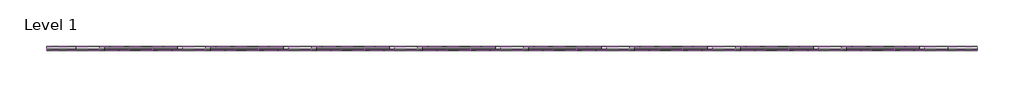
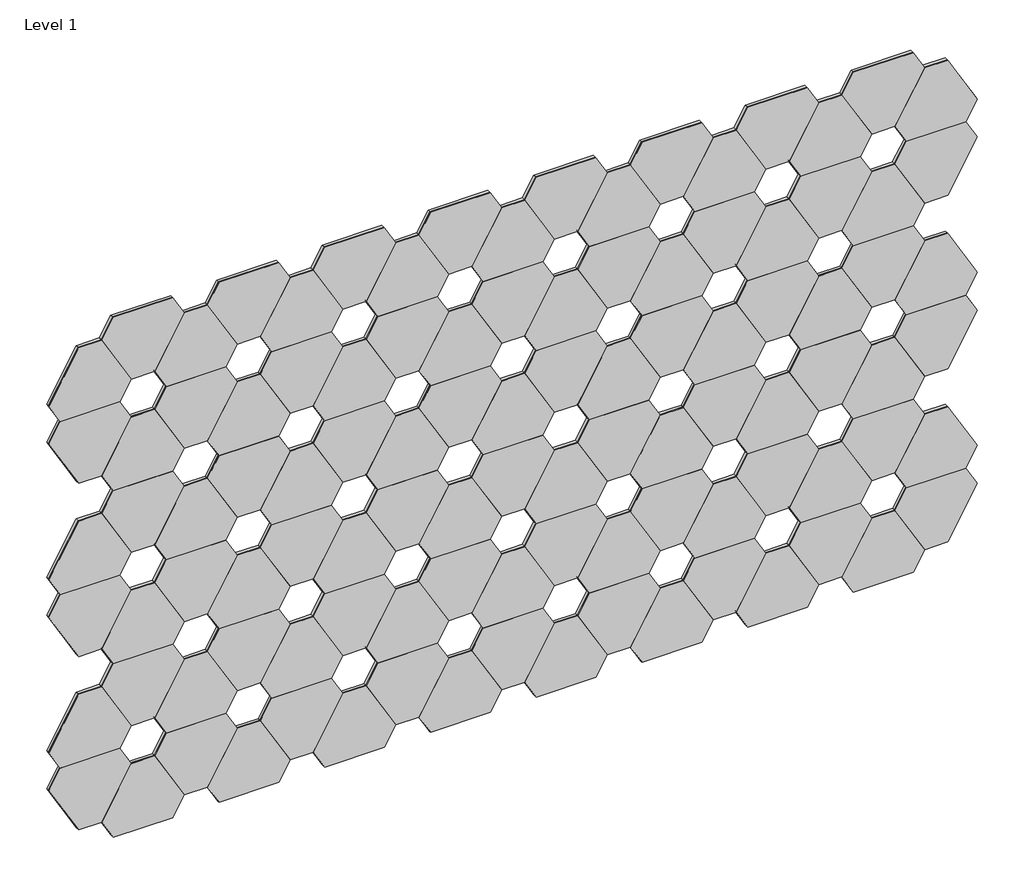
# One storey: 102 proxies.
"""IFC4 building model written with IfcOpenShell, lengths in millimetres."""

from ifc_helpers import new_model, si_unit, origin, place, context, project, spatial, transform, mapped, element, save
from components import aro_block_2_8349c359

model = new_model("IFC4")

# Units and contexts
model_context = context("Model", 3, world=origin())
ifc_project = project(units=[si_unit("LENGTHUNIT", "METRE", prefix="MILLI")], contexts=[model_context])

# Site, building, storey
site = spatial("IfcSite", under=ifc_project)
building = spatial("IfcBuilding", under=site)
storey = spatial("IfcBuildingStorey", under=building, Name="Level 1", Elevation=0.0)

# Proxies
placement = place(None, origin())
aro_block_2_shape = aro_block_2_8349c359(model_context)
element("IfcBuildingElementProxy", 1, Name="FilzFelt_ARO_Block 2 : ARO Block 2", ObjectType="FilzFelt_ARO_Block 2 : ARO Block 2", at=placement, inside=storey, context=model_context, shape_type="MappedRepresentation", body=[
    mapped(aro_block_2_shape, transform((-3217.4823723, -3152.3339335, 734.21875), x_axis=(1.0, 0.0, 0.0), y_axis=(0.0, 0.0, 1.0), z_axis=(0.0, -1.0, 0.0))),
])
element("IfcBuildingElementProxy", 2, Name="FilzFelt_ARO_Block 2 : ARO Block 2", ObjectType="FilzFelt_ARO_Block 2 : ARO Block 2", at=placement, inside=storey, context=model_context, shape_type="MappedRepresentation", body=[
    mapped(aro_block_2_shape, transform((-3391.0652095, -3152.3339335, 834.4368478), x_axis=(-1.0, 0.0, 0.0), y_axis=(0.0, 0.0, -1.0), z_axis=(0.0, -1.0, 0.0))),
])
element("IfcBuildingElementProxy", 3, Name="FilzFelt_ARO_Block 2 : ARO Block 2", ObjectType="FilzFelt_ARO_Block 2 : ARO Block 2", at=placement, inside=storey, context=model_context, shape_type="MappedRepresentation", body=[
    mapped(aro_block_2_shape, transform((-3043.899535, -3152.3339335, 1435.7454346), x_axis=(-1.0, 0.0, 0.0), y_axis=(0.0, 0.0, -1.0), z_axis=(0.0, -1.0, 0.0))),
])
element("IfcBuildingElementProxy", 4, Name="FilzFelt_ARO_Block 2 : ARO Block 2", ObjectType="FilzFelt_ARO_Block 2 : ARO Block 2", at=placement, inside=storey, context=model_context, shape_type="MappedRepresentation", body=[
    mapped(aro_block_2_shape, transform((-3391.0652095, -3152.3339335, 1636.1816303), x_axis=(1.0, 0.0, 0.0), y_axis=(0.0, 0.0, 1.0), z_axis=(0.0, -1.0, 0.0))),
])
element("IfcBuildingElementProxy", 5, Name="FilzFelt_ARO_Block 2 : ARO Block 2", ObjectType="FilzFelt_ARO_Block 2 : ARO Block 2", at=placement, inside=storey, context=model_context, shape_type="MappedRepresentation", body=[
    mapped(aro_block_2_shape, transform((-3043.899535, -3152.3339335, 1636.1816303), x_axis=(1.0, 0.0, 0.0), y_axis=(0.0, 0.0, 1.0), z_axis=(0.0, -1.0, 0.0))),
])
element("IfcBuildingElementProxy", 6, Name="FilzFelt_ARO_Block 2 : ARO Block 2", ObjectType="FilzFelt_ARO_Block 2 : ARO Block 2", at=placement, inside=storey, context=model_context, shape_type="MappedRepresentation", body=[
    mapped(aro_block_2_shape, transform((-3217.4823723, -3152.3339335, 1736.3997281), x_axis=(-1.0, 0.0, 0.0), y_axis=(0.0, 0.0, -1.0), z_axis=(0.0, -1.0, 0.0))),
])
element("IfcBuildingElementProxy", 7, Name="FilzFelt_ARO_Block 2 : ARO Block 2", ObjectType="FilzFelt_ARO_Block 2 : ARO Block 2", at=placement, inside=storey, context=model_context, shape_type="MappedRepresentation", body=[
    mapped(aro_block_2_shape, transform((-2870.3166978, -3152.3339335, 1936.8359237), x_axis=(1.0, 0.0, 0.0), y_axis=(0.0, 0.0, 1.0), z_axis=(0.0, -1.0, 0.0))),
])
element("IfcBuildingElementProxy", 8, Name="FilzFelt_ARO_Block 2 : ARO Block 2", ObjectType="FilzFelt_ARO_Block 2 : ARO Block 2", at=placement, inside=storey, context=model_context, shape_type="MappedRepresentation", body=[
    mapped(aro_block_2_shape, transform((-2696.7338606, -3152.3339335, 2037.0540215), x_axis=(-1.0, 0.0, 0.0), y_axis=(0.0, 0.0, -1.0), z_axis=(0.0, -1.0, 0.0))),
])
element("IfcBuildingElementProxy", 9, Name="FilzFelt_ARO_Block 2 : ARO Block 2", ObjectType="FilzFelt_ARO_Block 2 : ARO Block 2", at=placement, inside=storey, context=model_context, shape_type="MappedRepresentation", body=[
    mapped(aro_block_2_shape, transform((-2523.1510233, -3152.3339335, 1335.5273368), x_axis=(-0.5000000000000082, 0.0, -0.8660254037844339), y_axis=(0.8660254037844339, 0.0, -0.5000000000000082), z_axis=(0.0, -1.0, 0.0))),
])
element("IfcBuildingElementProxy", 10, Name="FilzFelt_ARO_Block 2 : ARO Block 2", ObjectType="FilzFelt_ARO_Block 2 : ARO Block 2", at=placement, inside=storey, context=model_context, shape_type="MappedRepresentation", body=[
    mapped(aro_block_2_shape, transform((-2523.1510233, -3152.3339335, 1936.8359237), x_axis=(-0.5000000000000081, 0.0, -0.866025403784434), y_axis=(0.866025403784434, 0.0, -0.5000000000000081), z_axis=(0.0, -1.0, 0.0))),
])
element("IfcBuildingElementProxy", 11, Name="FilzFelt_ARO_Block 2 : ARO Block 2", ObjectType="FilzFelt_ARO_Block 2 : ARO Block 2", at=placement, inside=storey, context=model_context, shape_type="MappedRepresentation", body=[
    mapped(aro_block_2_shape, transform((-2523.1510233, -3152.3339335, 1736.3997281), x_axis=(-1.0, 0.0, 0.0), y_axis=(0.0, 0.0, -1.0), z_axis=(0.0, -1.0, 0.0))),
])
element("IfcBuildingElementProxy", 12, Name="FilzFelt_ARO_Block 2 : ARO Block 2", ObjectType="FilzFelt_ARO_Block 2 : ARO Block 2", at=placement, inside=storey, context=model_context, shape_type="MappedRepresentation", body=[
    mapped(aro_block_2_shape, transform((-2523.1510233, -3152.3339335, 1135.0911412), x_axis=(-1.0, 0.0, 0.0), y_axis=(0.0, 0.0, -1.0), z_axis=(0.0, -1.0, 0.0))),
])
element("IfcBuildingElementProxy", 13, Name="FilzFelt_ARO_Block 2 : ARO Block 2", ObjectType="FilzFelt_ARO_Block 2 : ARO Block 2", at=placement, inside=storey, context=model_context, shape_type="MappedRepresentation", body=[
    mapped(aro_block_2_shape, transform((-2349.5681861, -3152.3339335, 1034.8730434), x_axis=(1.0, 0.0, 0.0), y_axis=(0.0, 0.0, 1.0), z_axis=(0.0, -1.0, 0.0))),
])
element("IfcBuildingElementProxy", 14, Name="FilzFelt_ARO_Block 2 : ARO Block 2", ObjectType="FilzFelt_ARO_Block 2 : ARO Block 2", at=placement, inside=storey, context=model_context, shape_type="MappedRepresentation", body=[
    mapped(aro_block_2_shape, transform((-2175.9853489, -3152.3339335, 1135.0911412), x_axis=(-1.0, 0.0, 0.0), y_axis=(0.0, 0.0, -1.0), z_axis=(0.0, -1.0, 0.0))),
])
element("IfcBuildingElementProxy", 15, Name="FilzFelt_ARO_Block 2 : ARO Block 2", ObjectType="FilzFelt_ARO_Block 2 : ARO Block 2", at=placement, inside=storey, context=model_context, shape_type="MappedRepresentation", body=[
    mapped(aro_block_2_shape, transform((-1481.6539999, -3152.3339335, 1335.5273368), x_axis=(1.0, 0.0, 0.0), y_axis=(0.0, 0.0, 1.0), z_axis=(0.0, -1.0, 0.0))),
])
element("IfcBuildingElementProxy", 16, Name="FilzFelt_ARO_Block 2 : ARO Block 2", ObjectType="FilzFelt_ARO_Block 2 : ARO Block 2", at=placement, inside=storey, context=model_context, shape_type="MappedRepresentation", body=[
    mapped(aro_block_2_shape, transform((-1828.8196744, -3152.3339335, 2337.7083149), x_axis=(-1.0, 0.0, 0.0), y_axis=(0.0, 0.0, -1.0), z_axis=(0.0, -1.0, 0.0))),
])
element("IfcBuildingElementProxy", 17, Name="FilzFelt_ARO_Block 2 : ARO Block 2", ObjectType="FilzFelt_ARO_Block 2 : ARO Block 2", at=placement, inside=storey, context=model_context, shape_type="MappedRepresentation", body=[
    mapped(aro_block_2_shape, transform((-1308.0711627, -3152.3339335, 1435.7454346), x_axis=(-1.0, 0.0, 0.0), y_axis=(0.0, 0.0, -1.0), z_axis=(0.0, -1.0, 0.0))),
])
element("IfcBuildingElementProxy", 18, Name="FilzFelt_ARO_Block 2 : ARO Block 2", ObjectType="FilzFelt_ARO_Block 2 : ARO Block 2", at=placement, inside=storey, context=model_context, shape_type="MappedRepresentation", body=[
    mapped(aro_block_2_shape, transform((-1134.4883254, -3152.3339335, 1335.5273368), x_axis=(-0.5000000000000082, 0.0, -0.8660254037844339), y_axis=(0.8660254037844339, 0.0, -0.5000000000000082), z_axis=(0.0, -1.0, 0.0))),
])
element("IfcBuildingElementProxy", 19, Name="FilzFelt_ARO_Block 2 : ARO Block 2", ObjectType="FilzFelt_ARO_Block 2 : ARO Block 2", at=placement, inside=storey, context=model_context, shape_type="MappedRepresentation", body=[
    mapped(aro_block_2_shape, transform((-1134.4883254, -3152.3339335, 1936.8359237), x_axis=(-0.5000000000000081, 0.0, -0.866025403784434), y_axis=(0.866025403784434, 0.0, -0.5000000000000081), z_axis=(0.0, -1.0, 0.0))),
])
element("IfcBuildingElementProxy", 20, Name="FilzFelt_ARO_Block 2 : ARO Block 2", ObjectType="FilzFelt_ARO_Block 2 : ARO Block 2", at=placement, inside=storey, context=model_context, shape_type="MappedRepresentation", body=[
    mapped(aro_block_2_shape, transform((-1134.4883254, -3152.3339335, 734.21875), x_axis=(-0.5000000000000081, 0.0, -0.866025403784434), y_axis=(0.866025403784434, 0.0, -0.5000000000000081), z_axis=(0.0, -1.0, 0.0))),
])
element("IfcBuildingElementProxy", 21, Name="FilzFelt_ARO_Block 2 : ARO Block 2", ObjectType="FilzFelt_ARO_Block 2 : ARO Block 2", at=placement, inside=storey, context=model_context, shape_type="MappedRepresentation", body=[
    mapped(aro_block_2_shape, transform((-960.9054882, -3152.3339335, 2037.0540215), x_axis=(-1.0, 0.0, 0.0), y_axis=(0.0, 0.0, -1.0), z_axis=(0.0, -1.0, 0.0))),
])
element("IfcBuildingElementProxy", 22, Name="FilzFelt_ARO_Block 2 : ARO Block 2", ObjectType="FilzFelt_ARO_Block 2 : ARO Block 2", at=placement, inside=storey, context=model_context, shape_type="MappedRepresentation", body=[
    mapped(aro_block_2_shape, transform((-1134.4883254, -3152.3339335, 1736.3997281), x_axis=(-1.0, 0.0, 0.0), y_axis=(0.0, 0.0, -1.0), z_axis=(0.0, -1.0, 0.0))),
])
element("IfcBuildingElementProxy", 23, Name="FilzFelt_ARO_Block 2 : ARO Block 2", ObjectType="FilzFelt_ARO_Block 2 : ARO Block 2", at=placement, inside=storey, context=model_context, shape_type="MappedRepresentation", body=[
    mapped(aro_block_2_shape, transform((-1134.4883254, -3152.3339335, 1135.0911412), x_axis=(-1.0, 0.0, 0.0), y_axis=(0.0, 0.0, -1.0), z_axis=(0.0, -1.0, 0.0))),
])
element("IfcBuildingElementProxy", 24, Name="FilzFelt_ARO_Block 2 : ARO Block 2", ObjectType="FilzFelt_ARO_Block 2 : ARO Block 2", at=placement, inside=storey, context=model_context, shape_type="MappedRepresentation", body=[
    mapped(aro_block_2_shape, transform((-787.3226509, -3152.3339335, 1936.8359237), x_axis=(1.0, 0.0, 0.0), y_axis=(0.0, 0.0, 1.0), z_axis=(0.0, -1.0, 0.0))),
])
element("IfcBuildingElementProxy", 25, Name="FilzFelt_ARO_Block 2 : ARO Block 2", ObjectType="FilzFelt_ARO_Block 2 : ARO Block 2", at=placement, inside=storey, context=model_context, shape_type="MappedRepresentation", body=[
    mapped(aro_block_2_shape, transform((-787.3226509, -3152.3339335, 2337.7083149), x_axis=(-1.0, 0.0, 0.0), y_axis=(0.0, 0.0, -1.0), z_axis=(0.0, -1.0, 0.0))),
])
element("IfcBuildingElementProxy", 26, Name="FilzFelt_ARO_Block 2 : ARO Block 2", ObjectType="FilzFelt_ARO_Block 2 : ARO Block 2", at=placement, inside=storey, context=model_context, shape_type="MappedRepresentation", body=[
    mapped(aro_block_2_shape, transform((-3391.0652095, -3152.3339335, 1034.8730434), x_axis=(1.0, 0.0, 0.0), y_axis=(0.0, 0.0, 1.0), z_axis=(0.0, -1.0, 0.0))),
])
element("IfcBuildingElementProxy", 27, Name="FilzFelt_ARO_Block 2 : ARO Block 2", ObjectType="FilzFelt_ARO_Block 2 : ARO Block 2", at=placement, inside=storey, context=model_context, shape_type="MappedRepresentation", body=[
    mapped(aro_block_2_shape, transform((-3043.899535, -3152.3339335, 1034.8730434), x_axis=(1.0, 0.0, 0.0), y_axis=(0.0, 0.0, 1.0), z_axis=(0.0, -1.0, 0.0))),
])
element("IfcBuildingElementProxy", 28, Name="FilzFelt_ARO_Block 2 : ARO Block 2", ObjectType="FilzFelt_ARO_Block 2 : ARO Block 2", at=placement, inside=storey, context=model_context, shape_type="MappedRepresentation", body=[
    mapped(aro_block_2_shape, transform((-3043.899535, -3152.3339335, 834.4368478), x_axis=(-1.0, 0.0, 0.0), y_axis=(0.0, 0.0, -1.0), z_axis=(0.0, -1.0, 0.0))),
])
element("IfcBuildingElementProxy", 29, Name="FilzFelt_ARO_Block 2 : ARO Block 2", ObjectType="FilzFelt_ARO_Block 2 : ARO Block 2", at=placement, inside=storey, context=model_context, shape_type="MappedRepresentation", body=[
    mapped(aro_block_2_shape, transform((-2349.5681861, -3152.3339335, 2037.0540215), x_axis=(-1.0, 0.0, 0.0), y_axis=(0.0, 0.0, -1.0), z_axis=(0.0, -1.0, 0.0))),
])
element("IfcBuildingElementProxy", 30, Name="FilzFelt_ARO_Block 2 : ARO Block 2", ObjectType="FilzFelt_ARO_Block 2 : ARO Block 2", at=placement, inside=storey, context=model_context, shape_type="MappedRepresentation", body=[
    mapped(aro_block_2_shape, transform((-2175.9853489, -3152.3339335, 1936.8359237), x_axis=(1.0, 0.0, 0.0), y_axis=(0.0, 0.0, 1.0), z_axis=(0.0, -1.0, 0.0))),
])
element("IfcBuildingElementProxy", 31, Name="FilzFelt_ARO_Block 2 : ARO Block 2", ObjectType="FilzFelt_ARO_Block 2 : ARO Block 2", at=placement, inside=storey, context=model_context, shape_type="MappedRepresentation", body=[
    mapped(aro_block_2_shape, transform((-1828.8196744, -3152.3339335, 734.21875), x_axis=(1.0, 0.0, 0.0), y_axis=(0.0, 0.0, 1.0), z_axis=(0.0, -1.0, 0.0))),
])
element("IfcBuildingElementProxy", 32, Name="FilzFelt_ARO_Block 2 : ARO Block 2", ObjectType="FilzFelt_ARO_Block 2 : ARO Block 2", at=placement, inside=storey, context=model_context, shape_type="MappedRepresentation", body=[
    mapped(aro_block_2_shape, transform((-2002.4025116, -3152.3339335, 834.4368478), x_axis=(-1.0, 0.0, 0.0), y_axis=(0.0, 0.0, -1.0), z_axis=(0.0, -1.0, 0.0))),
])
element("IfcBuildingElementProxy", 33, Name="FilzFelt_ARO_Block 2 : ARO Block 2", ObjectType="FilzFelt_ARO_Block 2 : ARO Block 2", at=placement, inside=storey, context=model_context, shape_type="MappedRepresentation", body=[
    mapped(aro_block_2_shape, transform((-2002.4025116, -3152.3339335, 1034.8730434), x_axis=(1.0, 0.0, 0.0), y_axis=(0.0, 0.0, 1.0), z_axis=(0.0, -1.0, 0.0))),
])
element("IfcBuildingElementProxy", 34, Name="FilzFelt_ARO_Block 2 : ARO Block 2", ObjectType="FilzFelt_ARO_Block 2 : ARO Block 2", at=placement, inside=storey, context=model_context, shape_type="MappedRepresentation", body=[
    mapped(aro_block_2_shape, transform((-1655.2368371, -3152.3339335, 834.4368478), x_axis=(-1.0, 0.0, 0.0), y_axis=(0.0, 0.0, -1.0), z_axis=(0.0, -1.0, 0.0))),
])
element("IfcBuildingElementProxy", 35, Name="FilzFelt_ARO_Block 2 : ARO Block 2", ObjectType="FilzFelt_ARO_Block 2 : ARO Block 2", at=placement, inside=storey, context=model_context, shape_type="MappedRepresentation", body=[
    mapped(aro_block_2_shape, transform((-1655.2368371, -3152.3339335, 1435.7454346), x_axis=(-1.0, 0.0, 0.0), y_axis=(0.0, 0.0, -1.0), z_axis=(0.0, -1.0, 0.0))),
])
element("IfcBuildingElementProxy", 36, Name="FilzFelt_ARO_Block 2 : ARO Block 2", ObjectType="FilzFelt_ARO_Block 2 : ARO Block 2", at=placement, inside=storey, context=model_context, shape_type="MappedRepresentation", body=[
    mapped(aro_block_2_shape, transform((-1655.2368371, -3152.3339335, 1636.1816303), x_axis=(1.0, 0.0, 0.0), y_axis=(0.0, 0.0, 1.0), z_axis=(0.0, -1.0, 0.0))),
])
element("IfcBuildingElementProxy", 37, Name="FilzFelt_ARO_Block 2 : ARO Block 2", ObjectType="FilzFelt_ARO_Block 2 : ARO Block 2", at=placement, inside=storey, context=model_context, shape_type="MappedRepresentation", body=[
    mapped(aro_block_2_shape, transform((-1481.6539999, -3152.3339335, 1736.3997281), x_axis=(-1.0, 0.0, 0.0), y_axis=(0.0, 0.0, -1.0), z_axis=(0.0, -1.0, 0.0))),
])
element("IfcBuildingElementProxy", 38, Name="FilzFelt_ARO_Block 2 : ARO Block 2", ObjectType="FilzFelt_ARO_Block 2 : ARO Block 2", at=placement, inside=storey, context=model_context, shape_type="MappedRepresentation", body=[
    mapped(aro_block_2_shape, transform((-2002.4025116, -3152.3339335, 2037.0540215), x_axis=(-1.0, 0.0, 0.0), y_axis=(0.0, 0.0, -1.0), z_axis=(0.0, -1.0, 0.0))),
])
element("IfcBuildingElementProxy", 39, Name="FilzFelt_ARO_Block 2 : ARO Block 2", ObjectType="FilzFelt_ARO_Block 2 : ARO Block 2", at=placement, inside=storey, context=model_context, shape_type="MappedRepresentation", body=[
    mapped(aro_block_2_shape, transform((-2002.4025116, -3152.3339335, 2237.4902171), x_axis=(1.0, 0.0, 0.0), y_axis=(0.0, 0.0, 1.0), z_axis=(0.0, -1.0, 0.0))),
])
element("IfcBuildingElementProxy", 40, Name="FilzFelt_ARO_Block 2 : ARO Block 2", ObjectType="FilzFelt_ARO_Block 2 : ARO Block 2", at=placement, inside=storey, context=model_context, shape_type="MappedRepresentation", body=[
    mapped(aro_block_2_shape, transform((-1308.0711627, -3152.3339335, 1636.1816303), x_axis=(1.0, 0.0, 0.0), y_axis=(0.0, 0.0, 1.0), z_axis=(0.0, -1.0, 0.0))),
])
element("IfcBuildingElementProxy", 41, Name="FilzFelt_ARO_Block 2 : ARO Block 2", ObjectType="FilzFelt_ARO_Block 2 : ARO Block 2", at=placement, inside=storey, context=model_context, shape_type="MappedRepresentation", body=[
    mapped(aro_block_2_shape, transform((-960.9054882, -3152.3339335, 1435.7454346), x_axis=(-1.0, 0.0, 0.0), y_axis=(0.0, 0.0, -1.0), z_axis=(0.0, -1.0, 0.0))),
])
element("IfcBuildingElementProxy", 42, Name="FilzFelt_ARO_Block 2 : ARO Block 2", ObjectType="FilzFelt_ARO_Block 2 : ARO Block 2", at=placement, inside=storey, context=model_context, shape_type="MappedRepresentation", body=[
    mapped(aro_block_2_shape, transform((-960.9054882, -3152.3339335, 1034.8730434), x_axis=(1.0, 0.0, 0.0), y_axis=(0.0, 0.0, 1.0), z_axis=(0.0, -1.0, 0.0))),
])
element("IfcBuildingElementProxy", 43, Name="FilzFelt_ARO_Block 2 : ARO Block 2", ObjectType="FilzFelt_ARO_Block 2 : ARO Block 2", at=placement, inside=storey, context=model_context, shape_type="MappedRepresentation", body=[
    mapped(aro_block_2_shape, transform((-960.9054882, -3152.3339335, 2237.4902171), x_axis=(1.0, 0.0, 0.0), y_axis=(0.0, 0.0, 1.0), z_axis=(0.0, -1.0, 0.0))),
])
element("IfcBuildingElementProxy", 44, Name="FilzFelt_ARO_Block 2 : ARO Block 2", ObjectType="FilzFelt_ARO_Block 2 : ARO Block 2", at=placement, inside=storey, context=model_context, shape_type="MappedRepresentation", body=[
    mapped(aro_block_2_shape, transform((-787.3226509, -3152.3339335, 1335.5273368), x_axis=(1.0, 0.0, 0.0), y_axis=(0.0, 0.0, 1.0), z_axis=(0.0, -1.0, 0.0))),
])
element("IfcBuildingElementProxy", 45, Name="FilzFelt_ARO_Block 2 : ARO Block 2", ObjectType="FilzFelt_ARO_Block 2 : ARO Block 2", at=placement, inside=storey, context=model_context, shape_type="MappedRepresentation", body=[
    mapped(aro_block_2_shape, transform((-787.3226509, -3152.3339335, 1135.0911412), x_axis=(-1.0, 0.0, 0.0), y_axis=(0.0, 0.0, -1.0), z_axis=(0.0, -1.0, 0.0))),
])
element("IfcBuildingElementProxy", 46, Name="FilzFelt_ARO_Block 2 : ARO Block 2", ObjectType="FilzFelt_ARO_Block 2 : ARO Block 2", at=placement, inside=storey, context=model_context, shape_type="MappedRepresentation", body=[
    mapped(aro_block_2_shape, transform((-3217.4823723, -3152.3339335, 1135.0911412), x_axis=(-1.0, 0.0, 0.0), y_axis=(0.0, 0.0, -1.0), z_axis=(0.0, -1.0, 0.0))),
])
element("IfcBuildingElementProxy", 47, Name="FilzFelt_ARO_Block 2 : ARO Block 2", ObjectType="FilzFelt_ARO_Block 2 : ARO Block 2", at=placement, inside=storey, context=model_context, shape_type="MappedRepresentation", body=[
    mapped(aro_block_2_shape, transform((-3217.4823723, -3152.3339335, 1335.5273368), x_axis=(1.0, 0.0, 0.0), y_axis=(0.0, 0.0, 1.0), z_axis=(0.0, -1.0, 0.0))),
])
element("IfcBuildingElementProxy", 48, Name="FilzFelt_ARO_Block 2 : ARO Block 2", ObjectType="FilzFelt_ARO_Block 2 : ARO Block 2", at=placement, inside=storey, context=model_context, shape_type="MappedRepresentation", body=[
    mapped(aro_block_2_shape, transform((-2870.3166978, -3152.3339335, 1335.5273368), x_axis=(1.0, 0.0, 0.0), y_axis=(0.0, 0.0, 1.0), z_axis=(0.0, -1.0, 0.0))),
])
element("IfcBuildingElementProxy", 49, Name="FilzFelt_ARO_Block 2 : ARO Block 2", ObjectType="FilzFelt_ARO_Block 2 : ARO Block 2", at=placement, inside=storey, context=model_context, shape_type="MappedRepresentation", body=[
    mapped(aro_block_2_shape, transform((-3391.0652095, -3152.3339335, 1435.7454346), x_axis=(-1.0, 0.0, 0.0), y_axis=(0.0, 0.0, -1.0), z_axis=(0.0, -1.0, 0.0))),
])
element("IfcBuildingElementProxy", 50, Name="FilzFelt_ARO_Block 2 : ARO Block 2", ObjectType="FilzFelt_ARO_Block 2 : ARO Block 2", at=placement, inside=storey, context=model_context, shape_type="MappedRepresentation", body=[
    mapped(aro_block_2_shape, transform((-2870.3166978, -3152.3339335, 1736.3997281), x_axis=(-1.0, 0.0, 0.0), y_axis=(0.0, 0.0, -1.0), z_axis=(0.0, -1.0, 0.0))),
])
element("IfcBuildingElementProxy", 51, Name="FilzFelt_ARO_Block 2 : ARO Block 2", ObjectType="FilzFelt_ARO_Block 2 : ARO Block 2", at=placement, inside=storey, context=model_context, shape_type="MappedRepresentation", body=[
    mapped(aro_block_2_shape, transform((-3043.899535, -3152.3339335, 2237.4902171), x_axis=(1.0, 0.0, 0.0), y_axis=(0.0, 0.0, 1.0), z_axis=(0.0, -1.0, 0.0))),
])
element("IfcBuildingElementProxy", 52, Name="FilzFelt_ARO_Block 2 : ARO Block 2", ObjectType="FilzFelt_ARO_Block 2 : ARO Block 2", at=placement, inside=storey, context=model_context, shape_type="MappedRepresentation", body=[
    mapped(aro_block_2_shape, transform((-3043.899535, -3152.3339335, 2037.0540215), x_axis=(-1.0, 0.0, 0.0), y_axis=(0.0, 0.0, -1.0), z_axis=(0.0, -1.0, 0.0))),
])
element("IfcBuildingElementProxy", 53, Name="FilzFelt_ARO_Block 2 : ARO Block 2", ObjectType="FilzFelt_ARO_Block 2 : ARO Block 2", at=placement, inside=storey, context=model_context, shape_type="MappedRepresentation", body=[
    mapped(aro_block_2_shape, transform((-2870.3166978, -3152.3339335, 2337.7083149), x_axis=(-1.0, 0.0, 0.0), y_axis=(0.0, 0.0, -1.0), z_axis=(0.0, -1.0, 0.0))),
])
element("IfcBuildingElementProxy", 54, Name="FilzFelt_ARO_Block 2 : ARO Block 2", ObjectType="FilzFelt_ARO_Block 2 : ARO Block 2", at=placement, inside=storey, context=model_context, shape_type="MappedRepresentation", body=[
    mapped(aro_block_2_shape, transform((-2696.7338606, -3152.3339335, 2237.4902171), x_axis=(1.0, 0.0, 0.0), y_axis=(0.0, 0.0, 1.0), z_axis=(0.0, -1.0, 0.0))),
])
element("IfcBuildingElementProxy", 55, Name="FilzFelt_ARO_Block 2 : ARO Block 2", ObjectType="FilzFelt_ARO_Block 2 : ARO Block 2", at=placement, inside=storey, context=model_context, shape_type="MappedRepresentation", body=[
    mapped(aro_block_2_shape, transform((-2696.7338606, -3152.3339335, 1636.1816303), x_axis=(1.0, 0.0, 0.0), y_axis=(0.0, 0.0, 1.0), z_axis=(0.0, -1.0, 0.0))),
])
element("IfcBuildingElementProxy", 56, Name="FilzFelt_ARO_Block 2 : ARO Block 2", ObjectType="FilzFelt_ARO_Block 2 : ARO Block 2", at=placement, inside=storey, context=model_context, shape_type="MappedRepresentation", body=[
    mapped(aro_block_2_shape, transform((-2696.7338606, -3152.3339335, 1435.7454346), x_axis=(-1.0, 0.0, 0.0), y_axis=(0.0, 0.0, -1.0), z_axis=(0.0, -1.0, 0.0))),
])
element("IfcBuildingElementProxy", 57, Name="FilzFelt_ARO_Block 2 : ARO Block 2", ObjectType="FilzFelt_ARO_Block 2 : ARO Block 2", at=placement, inside=storey, context=model_context, shape_type="MappedRepresentation", body=[
    mapped(aro_block_2_shape, transform((-2523.1510233, -3152.3339335, 734.21875), x_axis=(-0.5000000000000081, 0.0, -0.866025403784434), y_axis=(0.866025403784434, 0.0, -0.5000000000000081), z_axis=(0.0, -1.0, 0.0))),
])
element("IfcBuildingElementProxy", 58, Name="FilzFelt_ARO_Block 2 : ARO Block 2", ObjectType="FilzFelt_ARO_Block 2 : ARO Block 2", at=placement, inside=storey, context=model_context, shape_type="MappedRepresentation", body=[
    mapped(aro_block_2_shape, transform((-2349.5681861, -3152.3339335, 834.4368478), x_axis=(-1.0, 0.0, 0.0), y_axis=(0.0, 0.0, -1.0), z_axis=(0.0, -1.0, 0.0))),
])
element("IfcBuildingElementProxy", 59, Name="FilzFelt_ARO_Block 2 : ARO Block 2", ObjectType="FilzFelt_ARO_Block 2 : ARO Block 2", at=placement, inside=storey, context=model_context, shape_type="MappedRepresentation", body=[
    mapped(aro_block_2_shape, transform((-2175.9853489, -3152.3339335, 1335.5273368), x_axis=(1.0, 0.0, 0.0), y_axis=(0.0, 0.0, 1.0), z_axis=(0.0, -1.0, 0.0))),
])
element("IfcBuildingElementProxy", 60, Name="FilzFelt_ARO_Block 2 : ARO Block 2", ObjectType="FilzFelt_ARO_Block 2 : ARO Block 2", at=placement, inside=storey, context=model_context, shape_type="MappedRepresentation", body=[
    mapped(aro_block_2_shape, transform((-2175.9853489, -3152.3339335, 734.21875), x_axis=(1.0, 0.0, 0.0), y_axis=(0.0, 0.0, 1.0), z_axis=(0.0, -1.0, 0.0))),
])
element("IfcBuildingElementProxy", 61, Name="FilzFelt_ARO_Block 2 : ARO Block 2", ObjectType="FilzFelt_ARO_Block 2 : ARO Block 2", at=placement, inside=storey, context=model_context, shape_type="MappedRepresentation", body=[
    mapped(aro_block_2_shape, transform((-1828.8196744, -3152.3339335, 1135.0911412), x_axis=(-1.0, 0.0, 0.0), y_axis=(0.0, 0.0, -1.0), z_axis=(0.0, -1.0, 0.0))),
])
element("IfcBuildingElementProxy", 62, Name="FilzFelt_ARO_Block 2 : ARO Block 2", ObjectType="FilzFelt_ARO_Block 2 : ARO Block 2", at=placement, inside=storey, context=model_context, shape_type="MappedRepresentation", body=[
    mapped(aro_block_2_shape, transform((-1828.8196744, -3152.3339335, 1335.5273368), x_axis=(1.0, 0.0, 0.0), y_axis=(0.0, 0.0, 1.0), z_axis=(0.0, -1.0, 0.0))),
])
element("IfcBuildingElementProxy", 63, Name="FilzFelt_ARO_Block 2 : ARO Block 2", ObjectType="FilzFelt_ARO_Block 2 : ARO Block 2", at=placement, inside=storey, context=model_context, shape_type="MappedRepresentation", body=[
    mapped(aro_block_2_shape, transform((-2002.4025116, -3152.3339335, 1435.7454346), x_axis=(-1.0, 0.0, 0.0), y_axis=(0.0, 0.0, -1.0), z_axis=(0.0, -1.0, 0.0))),
])
element("IfcBuildingElementProxy", 64, Name="FilzFelt_ARO_Block 2 : ARO Block 2", ObjectType="FilzFelt_ARO_Block 2 : ARO Block 2", at=placement, inside=storey, context=model_context, shape_type="MappedRepresentation", body=[
    mapped(aro_block_2_shape, transform((-1481.6539999, -3152.3339335, 734.21875), x_axis=(1.0, 0.0, 0.0), y_axis=(0.0, 0.0, 1.0), z_axis=(0.0, -1.0, 0.0))),
])
element("IfcBuildingElementProxy", 65, Name="FilzFelt_ARO_Block 2 : ARO Block 2", ObjectType="FilzFelt_ARO_Block 2 : ARO Block 2", at=placement, inside=storey, context=model_context, shape_type="MappedRepresentation", body=[
    mapped(aro_block_2_shape, transform((-1828.8196744, -3152.3339335, 1736.3997281), x_axis=(-1.0, 0.0, 0.0), y_axis=(0.0, 0.0, -1.0), z_axis=(0.0, -1.0, 0.0))),
])
element("IfcBuildingElementProxy", 66, Name="FilzFelt_ARO_Block 2 : ARO Block 2", ObjectType="FilzFelt_ARO_Block 2 : ARO Block 2", at=placement, inside=storey, context=model_context, shape_type="MappedRepresentation", body=[
    mapped(aro_block_2_shape, transform((-1828.8196744, -3152.3339335, 1936.8359237), x_axis=(1.0, 0.0, 0.0), y_axis=(0.0, 0.0, 1.0), z_axis=(0.0, -1.0, 0.0))),
])
element("IfcBuildingElementProxy", 67, Name="FilzFelt_ARO_Block 2 : ARO Block 2", ObjectType="FilzFelt_ARO_Block 2 : ARO Block 2", at=placement, inside=storey, context=model_context, shape_type="MappedRepresentation", body=[
    mapped(aro_block_2_shape, transform((-1655.2368371, -3152.3339335, 2037.0540215), x_axis=(-1.0, 0.0, 0.0), y_axis=(0.0, 0.0, -1.0), z_axis=(0.0, -1.0, 0.0))),
])
element("IfcBuildingElementProxy", 68, Name="FilzFelt_ARO_Block 2 : ARO Block 2", ObjectType="FilzFelt_ARO_Block 2 : ARO Block 2", at=placement, inside=storey, context=model_context, shape_type="MappedRepresentation", body=[
    mapped(aro_block_2_shape, transform((-1481.6539999, -3152.3339335, 1936.8359237), x_axis=(1.0, 0.0, 0.0), y_axis=(0.0, 0.0, 1.0), z_axis=(0.0, -1.0, 0.0))),
])
element("IfcBuildingElementProxy", 69, Name="FilzFelt_ARO_Block 2 : ARO Block 2", ObjectType="FilzFelt_ARO_Block 2 : ARO Block 2", at=placement, inside=storey, context=model_context, shape_type="MappedRepresentation", body=[
    mapped(aro_block_2_shape, transform((-1134.4883254, -3152.3339335, 2337.7083149), x_axis=(-1.0, 0.0, 0.0), y_axis=(0.0, 0.0, -1.0), z_axis=(0.0, -1.0, 0.0))),
])
element("IfcBuildingElementProxy", 70, Name="FilzFelt_ARO_Block 2 : ARO Block 2", ObjectType="FilzFelt_ARO_Block 2 : ARO Block 2", at=placement, inside=storey, context=model_context, shape_type="MappedRepresentation", body=[
    mapped(aro_block_2_shape, transform((-960.9054882, -3152.3339335, 834.4368478), x_axis=(-1.0, 0.0, 0.0), y_axis=(0.0, 0.0, -1.0), z_axis=(0.0, -1.0, 0.0))),
])
element("IfcBuildingElementProxy", 71, Name="FilzFelt_ARO_Block 2 : ARO Block 2", ObjectType="FilzFelt_ARO_Block 2 : ARO Block 2", at=placement, inside=storey, context=model_context, shape_type="MappedRepresentation", body=[
    mapped(aro_block_2_shape, transform((-787.3226509, -3152.3339335, 734.21875), x_axis=(1.0, 0.0, 0.0), y_axis=(0.0, 0.0, 1.0), z_axis=(0.0, -1.0, 0.0))),
])
element("IfcBuildingElementProxy", 72, Name="FilzFelt_ARO_Block 2 : ARO Block 2", ObjectType="FilzFelt_ARO_Block 2 : ARO Block 2", at=placement, inside=storey, context=model_context, shape_type="MappedRepresentation", body=[
    mapped(aro_block_2_shape, transform((-613.7398137, -3152.3339335, 2237.4902171), x_axis=(1.0, 0.0, 0.0), y_axis=(0.0, 0.0, 1.0), z_axis=(0.0, -1.0, 0.0))),
])
element("IfcBuildingElementProxy", 73, Name="FilzFelt_ARO_Block 2 : ARO Block 2", ObjectType="FilzFelt_ARO_Block 2 : ARO Block 2", at=placement, inside=storey, context=model_context, shape_type="MappedRepresentation", body=[
    mapped(aro_block_2_shape, transform((-613.7398137, -3152.3339335, 1034.8730434), x_axis=(1.0, 0.0, 0.0), y_axis=(0.0, 0.0, 1.0), z_axis=(0.0, -1.0, 0.0))),
])
element("IfcBuildingElementProxy", 74, Name="FilzFelt_ARO_Block 2 : ARO Block 2", ObjectType="FilzFelt_ARO_Block 2 : ARO Block 2", at=placement, inside=storey, context=model_context, shape_type="MappedRepresentation", body=[
    mapped(aro_block_2_shape, transform((-613.7398137, -3152.3339335, 834.4368478), x_axis=(0.5000000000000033, 0.0, 0.8660254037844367), y_axis=(-0.8660254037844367, 0.0, 0.5000000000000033), z_axis=(0.0, -1.0, 0.0))),
])
element("IfcBuildingElementProxy", 75, Name="FilzFelt_ARO_Block 2 : ARO Block 2", ObjectType="FilzFelt_ARO_Block 2 : ARO Block 2", at=placement, inside=storey, context=model_context, shape_type="MappedRepresentation", body=[
    mapped(aro_block_2_shape, transform((-613.8798966, -3152.3339335, 2037.0540215), x_axis=(0.5000000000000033, 0.0, 0.8660254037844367), y_axis=(-0.8660254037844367, 0.0, 0.5000000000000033), z_axis=(0.0, -1.0, 0.0))),
])
element("IfcBuildingElementProxy", 76, Name="FilzFelt_ARO_Block 2 : ARO Block 2", ObjectType="FilzFelt_ARO_Block 2 : ARO Block 2", at=placement, inside=storey, context=model_context, shape_type="MappedRepresentation", body=[
    mapped(aro_block_2_shape, transform((-2870.3166978, -3152.3339335, 1135.0911412), x_axis=(-1.0, 0.0, 0.0), y_axis=(0.0, 0.0, -1.0), z_axis=(0.0, -1.0, 0.0))),
])
element("IfcBuildingElementProxy", 77, Name="FilzFelt_ARO_Block 2 : ARO Block 2", ObjectType="FilzFelt_ARO_Block 2 : ARO Block 2", at=placement, inside=storey, context=model_context, shape_type="MappedRepresentation", body=[
    mapped(aro_block_2_shape, transform((-2870.3166978, -3152.3339335, 734.21875), x_axis=(1.0, 0.0, 0.0), y_axis=(0.0, 0.0, 1.0), z_axis=(0.0, -1.0, 0.0))),
])
element("IfcBuildingElementProxy", 78, Name="FilzFelt_ARO_Block 2 : ARO Block 2", ObjectType="FilzFelt_ARO_Block 2 : ARO Block 2", at=placement, inside=storey, context=model_context, shape_type="MappedRepresentation", body=[
    mapped(aro_block_2_shape, transform((-3217.4823723, -3152.3339335, 1936.8359237), x_axis=(1.0, 0.0, 0.0), y_axis=(0.0, 0.0, 1.0), z_axis=(0.0, -1.0, 0.0))),
])
element("IfcBuildingElementProxy", 79, Name="FilzFelt_ARO_Block 2 : ARO Block 2", ObjectType="FilzFelt_ARO_Block 2 : ARO Block 2", at=placement, inside=storey, context=model_context, shape_type="MappedRepresentation", body=[
    mapped(aro_block_2_shape, transform((-3391.0652095, -3152.3339335, 2037.0540215), x_axis=(-1.0, 0.0, 0.0), y_axis=(0.0, 0.0, -1.0), z_axis=(0.0, -1.0, 0.0))),
])
element("IfcBuildingElementProxy", 80, Name="FilzFelt_ARO_Block 2 : ARO Block 2", ObjectType="FilzFelt_ARO_Block 2 : ARO Block 2", at=placement, inside=storey, context=model_context, shape_type="MappedRepresentation", body=[
    mapped(aro_block_2_shape, transform((-3391.0652095, -3152.3339335, 2237.4902171), x_axis=(1.0, 0.0, 0.0), y_axis=(0.0, 0.0, 1.0), z_axis=(0.0, -1.0, 0.0))),
])
element("IfcBuildingElementProxy", 81, Name="FilzFelt_ARO_Block 2 : ARO Block 2", ObjectType="FilzFelt_ARO_Block 2 : ARO Block 2", at=placement, inside=storey, context=model_context, shape_type="MappedRepresentation", body=[
    mapped(aro_block_2_shape, transform((-3217.4823723, -3152.3339335, 2337.7083149), x_axis=(-1.0, 0.0, 0.0), y_axis=(0.0, 0.0, -1.0), z_axis=(0.0, -1.0, 0.0))),
])
element("IfcBuildingElementProxy", 82, Name="FilzFelt_ARO_Block 2 : ARO Block 2", ObjectType="FilzFelt_ARO_Block 2 : ARO Block 2", at=placement, inside=storey, context=model_context, shape_type="MappedRepresentation", body=[
    mapped(aro_block_2_shape, transform((-2696.7338606, -3152.3339335, 1034.8730434), x_axis=(1.0, 0.0, 0.0), y_axis=(0.0, 0.0, 1.0), z_axis=(0.0, -1.0, 0.0))),
])
element("IfcBuildingElementProxy", 83, Name="FilzFelt_ARO_Block 2 : ARO Block 2", ObjectType="FilzFelt_ARO_Block 2 : ARO Block 2", at=placement, inside=storey, context=model_context, shape_type="MappedRepresentation", body=[
    mapped(aro_block_2_shape, transform((-2696.7338606, -3152.3339335, 834.4368478), x_axis=(-1.0, 0.0, 0.0), y_axis=(0.0, 0.0, -1.0), z_axis=(0.0, -1.0, 0.0))),
])
element("IfcBuildingElementProxy", 84, Name="FilzFelt_ARO_Block 2 : ARO Block 2", ObjectType="FilzFelt_ARO_Block 2 : ARO Block 2", at=placement, inside=storey, context=model_context, shape_type="MappedRepresentation", body=[
    mapped(aro_block_2_shape, transform((-2523.1510233, -3152.3339335, 2337.7083149), x_axis=(-1.0, 0.0, 0.0), y_axis=(0.0, 0.0, -1.0), z_axis=(0.0, -1.0, 0.0))),
])
element("IfcBuildingElementProxy", 85, Name="FilzFelt_ARO_Block 2 : ARO Block 2", ObjectType="FilzFelt_ARO_Block 2 : ARO Block 2", at=placement, inside=storey, context=model_context, shape_type="MappedRepresentation", body=[
    mapped(aro_block_2_shape, transform((-2349.5681861, -3152.3339335, 1435.7454346), x_axis=(-1.0, 0.0, 0.0), y_axis=(0.0, 0.0, -1.0), z_axis=(0.0, -1.0, 0.0))),
])
element("IfcBuildingElementProxy", 86, Name="FilzFelt_ARO_Block 2 : ARO Block 2", ObjectType="FilzFelt_ARO_Block 2 : ARO Block 2", at=placement, inside=storey, context=model_context, shape_type="MappedRepresentation", body=[
    mapped(aro_block_2_shape, transform((-2349.5681861, -3152.3339335, 1636.1816303), x_axis=(1.0, 0.0, 0.0), y_axis=(0.0, 0.0, 1.0), z_axis=(0.0, -1.0, 0.0))),
])
element("IfcBuildingElementProxy", 87, Name="FilzFelt_ARO_Block 2 : ARO Block 2", ObjectType="FilzFelt_ARO_Block 2 : ARO Block 2", at=placement, inside=storey, context=model_context, shape_type="MappedRepresentation", body=[
    mapped(aro_block_2_shape, transform((-2349.5681861, -3152.3339335, 2237.4902171), x_axis=(1.0, 0.0, 0.0), y_axis=(0.0, 0.0, 1.0), z_axis=(0.0, -1.0, 0.0))),
])
element("IfcBuildingElementProxy", 88, Name="FilzFelt_ARO_Block 2 : ARO Block 2", ObjectType="FilzFelt_ARO_Block 2 : ARO Block 2", at=placement, inside=storey, context=model_context, shape_type="MappedRepresentation", body=[
    mapped(aro_block_2_shape, transform((-2175.9853489, -3152.3339335, 1736.3997281), x_axis=(-1.0, 0.0, 0.0), y_axis=(0.0, 0.0, -1.0), z_axis=(0.0, -1.0, 0.0))),
])
element("IfcBuildingElementProxy", 89, Name="FilzFelt_ARO_Block 2 : ARO Block 2", ObjectType="FilzFelt_ARO_Block 2 : ARO Block 2", at=placement, inside=storey, context=model_context, shape_type="MappedRepresentation", body=[
    mapped(aro_block_2_shape, transform((-2175.9853489, -3152.3339335, 2337.7083149), x_axis=(-1.0, 0.0, 0.0), y_axis=(0.0, 0.0, -1.0), z_axis=(0.0, -1.0, 0.0))),
])
element("IfcBuildingElementProxy", 90, Name="FilzFelt_ARO_Block 2 : ARO Block 2", ObjectType="FilzFelt_ARO_Block 2 : ARO Block 2", at=placement, inside=storey, context=model_context, shape_type="MappedRepresentation", body=[
    mapped(aro_block_2_shape, transform((-1655.2368371, -3152.3339335, 1034.8730434), x_axis=(1.0, 0.0, 0.0), y_axis=(0.0, 0.0, 1.0), z_axis=(0.0, -1.0, 0.0))),
])
element("IfcBuildingElementProxy", 91, Name="FilzFelt_ARO_Block 2 : ARO Block 2", ObjectType="FilzFelt_ARO_Block 2 : ARO Block 2", at=placement, inside=storey, context=model_context, shape_type="MappedRepresentation", body=[
    mapped(aro_block_2_shape, transform((-1481.6539999, -3152.3339335, 1135.0911412), x_axis=(-1.0, 0.0, 0.0), y_axis=(0.0, 0.0, -1.0), z_axis=(0.0, -1.0, 0.0))),
])
element("IfcBuildingElementProxy", 92, Name="FilzFelt_ARO_Block 2 : ARO Block 2", ObjectType="FilzFelt_ARO_Block 2 : ARO Block 2", at=placement, inside=storey, context=model_context, shape_type="MappedRepresentation", body=[
    mapped(aro_block_2_shape, transform((-2002.4025116, -3152.3339335, 1636.1816303), x_axis=(1.0, 0.0, 0.0), y_axis=(0.0, 0.0, 1.0), z_axis=(0.0, -1.0, 0.0))),
])
element("IfcBuildingElementProxy", 93, Name="FilzFelt_ARO_Block 2 : ARO Block 2", ObjectType="FilzFelt_ARO_Block 2 : ARO Block 2", at=placement, inside=storey, context=model_context, shape_type="MappedRepresentation", body=[
    mapped(aro_block_2_shape, transform((-1655.2368371, -3152.3339335, 2237.4902171), x_axis=(1.0, 0.0, 0.0), y_axis=(0.0, 0.0, 1.0), z_axis=(0.0, -1.0, 0.0))),
])
element("IfcBuildingElementProxy", 94, Name="FilzFelt_ARO_Block 2 : ARO Block 2", ObjectType="FilzFelt_ARO_Block 2 : ARO Block 2", at=placement, inside=storey, context=model_context, shape_type="MappedRepresentation", body=[
    mapped(aro_block_2_shape, transform((-1481.6539999, -3152.3339335, 2337.7083149), x_axis=(-1.0, 0.0, 0.0), y_axis=(0.0, 0.0, -1.0), z_axis=(0.0, -1.0, 0.0))),
])
element("IfcBuildingElementProxy", 95, Name="FilzFelt_ARO_Block 2 : ARO Block 2", ObjectType="FilzFelt_ARO_Block 2 : ARO Block 2", at=placement, inside=storey, context=model_context, shape_type="MappedRepresentation", body=[
    mapped(aro_block_2_shape, transform((-1308.0711627, -3152.3339335, 2237.4902171), x_axis=(1.0, 0.0, 0.0), y_axis=(0.0, 0.0, 1.0), z_axis=(0.0, -1.0, 0.0))),
])
element("IfcBuildingElementProxy", 96, Name="FilzFelt_ARO_Block 2 : ARO Block 2", ObjectType="FilzFelt_ARO_Block 2 : ARO Block 2", at=placement, inside=storey, context=model_context, shape_type="MappedRepresentation", body=[
    mapped(aro_block_2_shape, transform((-1308.0711627, -3152.3339335, 1034.8730434), x_axis=(1.0, 0.0, 0.0), y_axis=(0.0, 0.0, 1.0), z_axis=(0.0, -1.0, 0.0))),
])
element("IfcBuildingElementProxy", 97, Name="FilzFelt_ARO_Block 2 : ARO Block 2", ObjectType="FilzFelt_ARO_Block 2 : ARO Block 2", at=placement, inside=storey, context=model_context, shape_type="MappedRepresentation", body=[
    mapped(aro_block_2_shape, transform((-1308.0711627, -3152.3339335, 2037.0540215), x_axis=(-1.0, 0.0, 0.0), y_axis=(0.0, 0.0, -1.0), z_axis=(0.0, -1.0, 0.0))),
])
element("IfcBuildingElementProxy", 98, Name="FilzFelt_ARO_Block 2 : ARO Block 2", ObjectType="FilzFelt_ARO_Block 2 : ARO Block 2", at=placement, inside=storey, context=model_context, shape_type="MappedRepresentation", body=[
    mapped(aro_block_2_shape, transform((-1308.0711627, -3152.3339335, 834.4368478), x_axis=(-1.0, 0.0, 0.0), y_axis=(0.0, 0.0, -1.0), z_axis=(0.0, -1.0, 0.0))),
])
element("IfcBuildingElementProxy", 99, Name="FilzFelt_ARO_Block 2 : ARO Block 2", ObjectType="FilzFelt_ARO_Block 2 : ARO Block 2", at=placement, inside=storey, context=model_context, shape_type="MappedRepresentation", body=[
    mapped(aro_block_2_shape, transform((-960.9054882, -3152.3339335, 1636.1816303), x_axis=(1.0, 0.0, 0.0), y_axis=(0.0, 0.0, 1.0), z_axis=(0.0, -1.0, 0.0))),
])
element("IfcBuildingElementProxy", 100, Name="FilzFelt_ARO_Block 2 : ARO Block 2", ObjectType="FilzFelt_ARO_Block 2 : ARO Block 2", at=placement, inside=storey, context=model_context, shape_type="MappedRepresentation", body=[
    mapped(aro_block_2_shape, transform((-787.3226509, -3152.3339335, 1736.3997281), x_axis=(-1.0, 0.0, 0.0), y_axis=(0.0, 0.0, -1.0), z_axis=(0.0, -1.0, 0.0))),
])
element("IfcBuildingElementProxy", 101, Name="FilzFelt_ARO_Block 2 : ARO Block 2", ObjectType="FilzFelt_ARO_Block 2 : ARO Block 2", at=placement, inside=storey, context=model_context, shape_type="MappedRepresentation", body=[
    mapped(aro_block_2_shape, transform((-613.7398137, -3152.3339335, 1636.1816303), x_axis=(1.0, 0.0, 0.0), y_axis=(0.0, 0.0, 1.0), z_axis=(0.0, -1.0, 0.0))),
])
element("IfcBuildingElementProxy", 102, Name="FilzFelt_ARO_Block 2 : ARO Block 2", ObjectType="FilzFelt_ARO_Block 2 : ARO Block 2", at=placement, inside=storey, context=model_context, shape_type="MappedRepresentation", body=[
    mapped(aro_block_2_shape, transform((-613.7398137, -3152.3339335, 1435.7454346), x_axis=(0.5000000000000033, 0.0, 0.8660254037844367), y_axis=(-0.8660254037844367, 0.0, 0.5000000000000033), z_axis=(0.0, -1.0, 0.0))),
])

save(model, "model.ifc")
